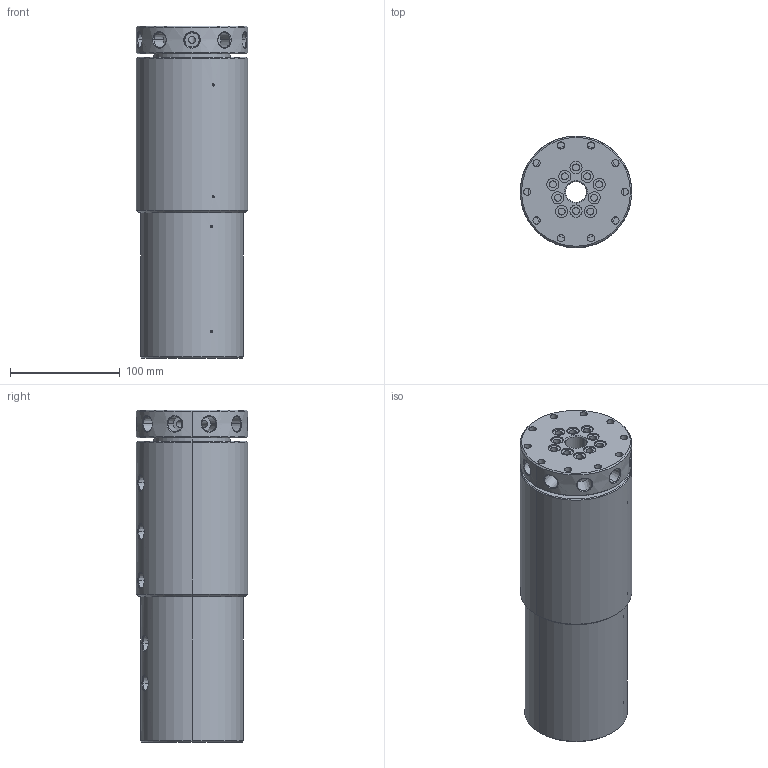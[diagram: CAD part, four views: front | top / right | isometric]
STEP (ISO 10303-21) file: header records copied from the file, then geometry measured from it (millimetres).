
FILE_DESCRIPTION (( 'STEP AP214' ), '1' );
FILE_NAME ('GP(M)-210-10.STEP', '2013-02-05T22:13:29', ( '' ), ( '' ), 'SwSTEP 2.0', 'SolidWorks 2011', '' );
FILE_SCHEMA (( 'AUTOMOTIVE_DESIGN' ));
Length unit declared in the file: inch
Products named in the file (1): GP(M)-210-10
Bounding box: 101.6 x 101.6 x 302.56 mm (x, y, z)
Volume: 2102123.3 mm3; surface area: 163124.3 mm2
Topology: 1 solids, 1 shells, 394 faces, 990 edges, 617 vertices
Faces by surface type: cylinder 167, cone 102, plane 83, bspline 40, torus 2
Entity records: 17396 total; most frequent: CARTESIAN_POINT 6620, ORIENTED_EDGE 1888, DIRECTION 1836, EDGE_CURVE 944, AXIS2_PLACEMENT_3D 761, VERTEX_POINT 617, EDGE_LOOP 501, CIRCLE 406
